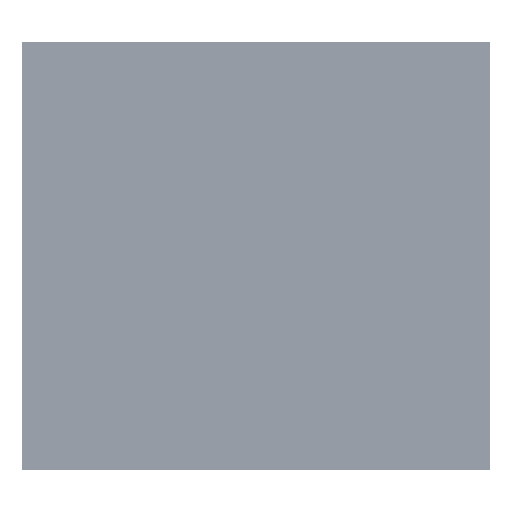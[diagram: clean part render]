
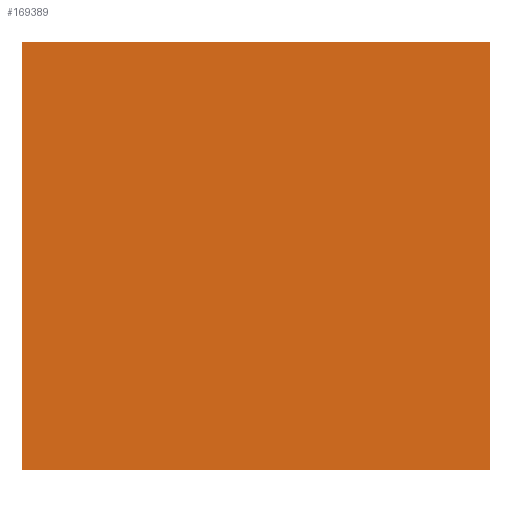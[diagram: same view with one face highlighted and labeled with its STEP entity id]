
A CAD part, front view. The second image highlights one B-rep face of the part: STEP entity #169389.
In plain terms, the highlighted planar face has unit normal (0, -1, 0).
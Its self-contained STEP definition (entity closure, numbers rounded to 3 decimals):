
#13412 = DIRECTION ( 'NONE',  ( 0., 1., 0. ) ) ;
#29253 = LINE ( 'NONE', #282599, #91188 ) ;
#55689 = CARTESIAN_POINT ( 'NONE',  ( 0., -1005., -6600. ) ) ;
#65961 = VERTEX_POINT ( 'NONE', #55689 ) ;
#86074 = ORIENTED_EDGE ( 'NONE', *, *, #316067, .F. ) ;
#91188 = VECTOR ( 'NONE', #170184, 1000. ) ;
#98350 = VERTEX_POINT ( 'NONE', #104152 ) ;
#104152 = CARTESIAN_POINT ( 'NONE',  ( 0., -1005., -560.885 ) ) ;
#109500 = ORIENTED_EDGE ( 'NONE', *, *, #175451, .F. ) ;
#129789 = EDGE_LOOP ( 'NONE', ( #86074, #109500, #228314, #256008 ) ) ;
#131988 = DIRECTION ( 'NONE',  ( 0., 0., -1. ) ) ;
#137049 = VERTEX_POINT ( 'NONE', #164139 ) ;
#137158 = VECTOR ( 'NONE', #131988, 1000. ) ;
#149183 = CARTESIAN_POINT ( 'NONE',  ( 0., -1005., -6600. ) ) ;
#164139 = CARTESIAN_POINT ( 'NONE',  ( 6600., -1005., -560.885 ) ) ;
#169389 = ADVANCED_FACE ( 'NONE', ( #171161 ), #243401, .F. ) ;
#170184 = DIRECTION ( 'NONE',  ( 1., 0., 0. ) ) ;
#171161 = FACE_OUTER_BOUND ( 'NONE', #129789, .T. ) ;
#174275 = EDGE_CURVE ( 'NONE', #137049, #344717, #194686, .T. ) ;
#175451 = EDGE_CURVE ( 'NONE', #344717, #65961, #275582, .T. ) ;
#187491 = VECTOR ( 'NONE', #193039, 1000. ) ;
#193039 = DIRECTION ( 'NONE',  ( 0., 0., 1. ) ) ;
#194686 = LINE ( 'NONE', #249344, #137158 ) ;
#206091 = DIRECTION ( 'NONE',  ( -1., 0., 0. ) ) ;
#217783 = CARTESIAN_POINT ( 'NONE',  ( 0., -1005., -6600. ) ) ;
#228314 = ORIENTED_EDGE ( 'NONE', *, *, #174275, .F. ) ;
#238536 = DIRECTION ( 'NONE',  ( 0., 0., 1. ) ) ;
#243401 = PLANE ( 'NONE',  #305792 ) ;
#249344 = CARTESIAN_POINT ( 'NONE',  ( 6600., -1005., -6600. ) ) ;
#256008 = ORIENTED_EDGE ( 'NONE', *, *, #341183, .F. ) ;
#266740 = VECTOR ( 'NONE', #206091, 1000. ) ;
#275582 = LINE ( 'NONE', #149183, #266740 ) ;
#282599 = CARTESIAN_POINT ( 'NONE',  ( 0., -1005., -560.885 ) ) ;
#305792 = AXIS2_PLACEMENT_3D ( 'NONE', #325060, #13412, #238536 ) ;
#316067 = EDGE_CURVE ( 'NONE', #65961, #98350, #351010, .T. ) ;
#325060 = CARTESIAN_POINT ( 'NONE',  ( 0., -1005., 0. ) ) ;
#341183 = EDGE_CURVE ( 'NONE', #98350, #137049, #29253, .T. ) ;
#344717 = VERTEX_POINT ( 'NONE', #358941 ) ;
#351010 = LINE ( 'NONE', #217783, #187491 ) ;
#358941 = CARTESIAN_POINT ( 'NONE',  ( 6600., -1005., -6600. ) ) ;
